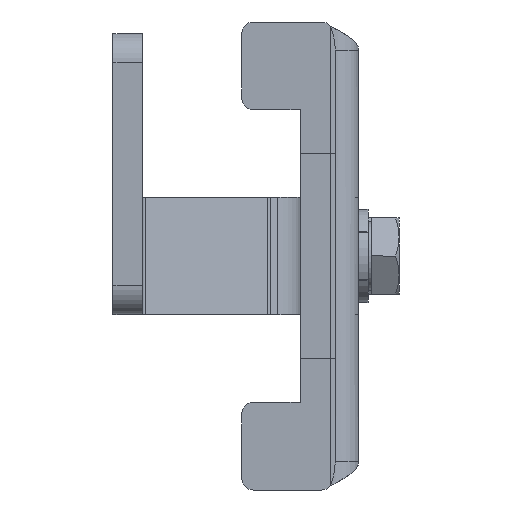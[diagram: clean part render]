
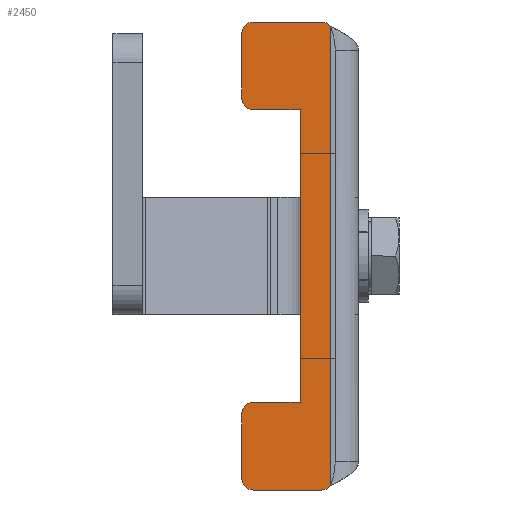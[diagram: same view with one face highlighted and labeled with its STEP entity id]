
A CAD part, left-side view. The second image highlights one B-rep face of the part: STEP entity #2450.
In plain terms, the highlighted planar face has unit normal (-1, 0, 0) as drawn and (0, 0, -1) by its records, which use the part's own axes.
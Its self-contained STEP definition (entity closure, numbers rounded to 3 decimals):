
#225=PLANE('',#2774);
#312=FACE_OUTER_BOUND('',#459,.T.);
#459=EDGE_LOOP('',(#1778,#1779,#1780,#1781,#1782,#1783,#1784,#1785,#1786,
#1787,#1788,#1789,#1790,#1791,#1792,#1793));
#615=LINE('',#3874,#821);
#624=LINE('',#3937,#830);
#631=LINE('',#3957,#837);
#634=LINE('',#3962,#840);
#635=LINE('',#3966,#841);
#636=LINE('',#3970,#842);
#637=LINE('',#3974,#843);
#638=LINE('',#3976,#844);
#639=LINE('',#3978,#845);
#640=LINE('',#3982,#846);
#821=VECTOR('',#3098,10.);
#830=VECTOR('',#3109,10.);
#837=VECTOR('',#3126,2.61);
#840=VECTOR('',#3131,10.);
#841=VECTOR('',#3134,2.61);
#842=VECTOR('',#3137,10.);
#843=VECTOR('',#3140,10.);
#844=VECTOR('',#3141,10.);
#845=VECTOR('',#3142,10.);
#846=VECTOR('',#3145,10.);
#1021=CIRCLE('',#2771,2.);
#1023=CIRCLE('',#2775,2.);
#1024=CIRCLE('',#2776,2.);
#1025=CIRCLE('',#2777,2.);
#1026=CIRCLE('',#2778,2.);
#1027=CIRCLE('',#2779,2.);
#1141=VERTEX_POINT('',#3871);
#1142=VERTEX_POINT('',#3873);
#1144=VERTEX_POINT('',#3902);
#1151=VERTEX_POINT('',#3935);
#1157=VERTEX_POINT('',#3950);
#1159=VERTEX_POINT('',#3956);
#1161=VERTEX_POINT('',#3963);
#1162=VERTEX_POINT('',#3965);
#1163=VERTEX_POINT('',#3967);
#1164=VERTEX_POINT('',#3969);
#1165=VERTEX_POINT('',#3971);
#1166=VERTEX_POINT('',#3973);
#1167=VERTEX_POINT('',#3975);
#1168=VERTEX_POINT('',#3977);
#1169=VERTEX_POINT('',#3979);
#1170=VERTEX_POINT('',#3981);
#1375=EDGE_CURVE('',#1142,#1141,#615,.T.);
#1386=EDGE_CURVE('',#1144,#1151,#624,.T.);
#1392=EDGE_CURVE('',#1142,#1157,#1021,.T.);
#1395=EDGE_CURVE('',#1157,#1159,#631,.T.);
#1398=EDGE_CURVE('',#1141,#1144,#634,.T.);
#1399=EDGE_CURVE('',#1161,#1151,#1023,.T.);
#1400=EDGE_CURVE('',#1161,#1162,#635,.T.);
#1401=EDGE_CURVE('',#1163,#1162,#1024,.T.);
#1402=EDGE_CURVE('',#1163,#1164,#636,.T.);
#1403=EDGE_CURVE('',#1165,#1164,#1025,.T.);
#1404=EDGE_CURVE('',#1165,#1166,#637,.T.);
#1405=EDGE_CURVE('',#1166,#1167,#638,.T.);
#1406=EDGE_CURVE('',#1167,#1168,#639,.T.);
#1407=EDGE_CURVE('',#1169,#1168,#1026,.T.);
#1408=EDGE_CURVE('',#1169,#1170,#640,.T.);
#1409=EDGE_CURVE('',#1159,#1170,#1027,.T.);
#1778=ORIENTED_EDGE('',*,*,#1392,.F.);
#1779=ORIENTED_EDGE('',*,*,#1375,.T.);
#1780=ORIENTED_EDGE('',*,*,#1398,.T.);
#1781=ORIENTED_EDGE('',*,*,#1386,.T.);
#1782=ORIENTED_EDGE('',*,*,#1399,.F.);
#1783=ORIENTED_EDGE('',*,*,#1400,.T.);
#1784=ORIENTED_EDGE('',*,*,#1401,.F.);
#1785=ORIENTED_EDGE('',*,*,#1402,.T.);
#1786=ORIENTED_EDGE('',*,*,#1403,.F.);
#1787=ORIENTED_EDGE('',*,*,#1404,.T.);
#1788=ORIENTED_EDGE('',*,*,#1405,.T.);
#1789=ORIENTED_EDGE('',*,*,#1406,.T.);
#1790=ORIENTED_EDGE('',*,*,#1407,.F.);
#1791=ORIENTED_EDGE('',*,*,#1408,.T.);
#1792=ORIENTED_EDGE('',*,*,#1409,.F.);
#1793=ORIENTED_EDGE('',*,*,#1395,.F.);
#2450=ADVANCED_FACE('',(#312),#225,.F.);
#2771=AXIS2_PLACEMENT_3D('',#3951,#3119,#3120);
#2774=AXIS2_PLACEMENT_3D('',#3961,#3129,#3130);
#2775=AXIS2_PLACEMENT_3D('',#3964,#3132,#3133);
#2776=AXIS2_PLACEMENT_3D('',#3968,#3135,#3136);
#2777=AXIS2_PLACEMENT_3D('',#3972,#3138,#3139);
#2778=AXIS2_PLACEMENT_3D('',#3980,#3143,#3144);
#2779=AXIS2_PLACEMENT_3D('',#3983,#3146,#3147);
#3098=DIRECTION('',(-0.707,-0.707,0.));
#3109=DIRECTION('',(-0.707,0.707,0.));
#3119=DIRECTION('center_axis',(0.,0.,
1.));
#3120=DIRECTION('ref_axis',(0.924,-0.383,0.));
#3126=DIRECTION('',(0.,1.,0.));
#3129=DIRECTION('center_axis',(0.,0.,
1.));
#3130=DIRECTION('ref_axis',(0.,-1.,0.));
#3131=DIRECTION('',(-1.,0.,0.));
#3132=DIRECTION('center_axis',(0.,0.,
1.));
#3133=DIRECTION('ref_axis',(-0.924,-0.383,0.));
#3134=DIRECTION('',(0.,1.,0.));
#3135=DIRECTION('center_axis',(0.,0.,
1.));
#3136=DIRECTION('ref_axis',(-0.707,0.707,0.));
#3137=DIRECTION('',(1.,0.,0.));
#3138=DIRECTION('center_axis',(0.,0.,
1.));
#3139=DIRECTION('ref_axis',(0.707,0.707,0.));
#3140=DIRECTION('',(0.,-1.,0.));
#3141=DIRECTION('',(1.,0.,0.));
#3142=DIRECTION('',(0.,1.,0.));
#3143=DIRECTION('center_axis',(0.,0.,
1.));
#3144=DIRECTION('ref_axis',(-0.707,0.707,0.));
#3145=DIRECTION('',(1.,0.,0.));
#3146=DIRECTION('center_axis',(0.,0.,
1.));
#3147=DIRECTION('ref_axis',(0.707,0.707,0.));
#3871=CARTESIAN_POINT('',(39.3,4.8,0.));
#3873=CARTESIAN_POINT('',(39.414,4.914,0.));
#3874=CARTESIAN_POINT('',(18.169,-16.331,0.));
#3902=CARTESIAN_POINT('',(-39.3,4.8,0.));
#3935=CARTESIAN_POINT('',(-39.414,4.914,0.));
#3937=CARTESIAN_POINT('',(-21.25,-13.25,0.));
#3950=CARTESIAN_POINT('',(40.,6.328,0.));
#3951=CARTESIAN_POINT('Origin',(38.,6.328,0.));
#3956=CARTESIAN_POINT('',(40.,18.,0.));
#3957=CARTESIAN_POINT('',(40.,-3.4,0.));
#3961=CARTESIAN_POINT('Origin',(-31.161,-10.661,0.));
#3962=CARTESIAN_POINT('',(0.,4.8,0.));
#3963=CARTESIAN_POINT('',(-40.,6.328,0.));
#3964=CARTESIAN_POINT('Origin',(-38.,6.328,0.));
#3965=CARTESIAN_POINT('',(-40.,18.,0.));
#3966=CARTESIAN_POINT('',(-40.,-3.4,0.));
#3967=CARTESIAN_POINT('',(-38.,20.,0.));
#3968=CARTESIAN_POINT('Origin',(-38.,18.,0.));
#3969=CARTESIAN_POINT('',(-27.,20.,0.));
#3970=CARTESIAN_POINT('',(-40.,20.,0.));
#3971=CARTESIAN_POINT('',(-25.,18.,0.));
#3972=CARTESIAN_POINT('Origin',(-27.,18.,0.));
#3973=CARTESIAN_POINT('',(-25.,10.,0.));
#3974=CARTESIAN_POINT('',(-25.,15.175,0.));
#3975=CARTESIAN_POINT('',(25.,10.,0.));
#3976=CARTESIAN_POINT('',(-12.5,10.,0.));
#3977=CARTESIAN_POINT('',(25.,18.,0.));
#3978=CARTESIAN_POINT('',(25.,10.175,0.));
#3979=CARTESIAN_POINT('',(27.,20.,0.));
#3980=CARTESIAN_POINT('Origin',(27.,18.,0.));
#3981=CARTESIAN_POINT('',(38.,20.,0.));
#3982=CARTESIAN_POINT('',(-40.,20.,0.));
#3983=CARTESIAN_POINT('Origin',(38.,18.,0.));
